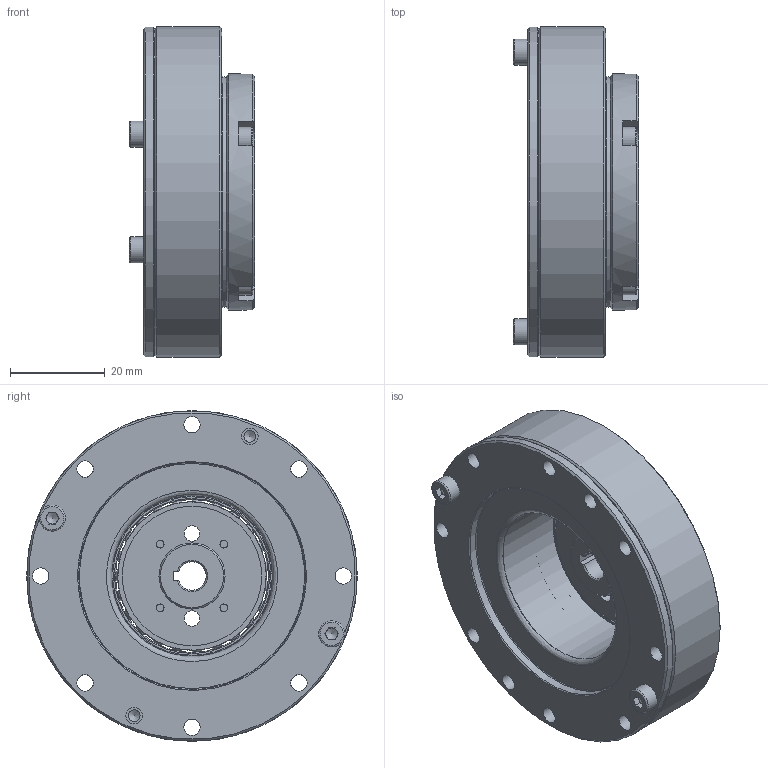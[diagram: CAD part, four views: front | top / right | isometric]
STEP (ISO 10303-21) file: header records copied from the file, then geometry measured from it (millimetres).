
FILE_DESCRIPTION (( 'STEP AP203' ), '1' );
FILE_NAME ('LHS-14-XXX-C-I.STEP', '2025-01-07T05:53:04', ( '' ), ( '' ), 'SwSTEP 2.0', 'SolidWorks 2023', '' );
FILE_SCHEMA (( 'CONFIG_CONTROL_DESIGN' ));
Length unit declared in the file: metre
Products named in the file (1): LHS-14-XXX-C-I
Bounding box: 26.5 x 70 x 70 mm (x, y, z)
Volume: 49771.2 mm3; surface area: 46050.4 mm2
Topology: 43 solids, 43 shells, 604 faces, 1466 edges, 928 vertices
Faces by surface type: plane 279, cylinder 178, cone 93, bspline 54
Full cylindrical faces by diameter (mm): 1.6 x4, 2 x4, 2.4 x4, 2.5 x20, 3 x6, 3.3 x2, 3.5 x24, 3.7 x8, 3.8 x4, 4.5 x2, 5.5 x6, 13 x2, 14 x1, 23.5 x2, 24.1 x1, 25 x1, 25.07 x1, 26 x1, 26.5 x1, 26.707 x2, 27.6 x1, 29.5 x1, 31.4 x1, 32.36 x2, 33.92 x1, 34.088 x1, 34.588 x1, 34.7 x1, 35.499 x1, 38 x2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
Entity records: 18760 total; most frequent: CARTESIAN_POINT 5901, DIRECTION 2732, ORIENTED_EDGE 2268, AXIS2_PLACEMENT_3D 1155, EDGE_CURVE 1134, EDGE_LOOP 944, VERTEX_POINT 840, FACE_OUTER_BOUND 739
